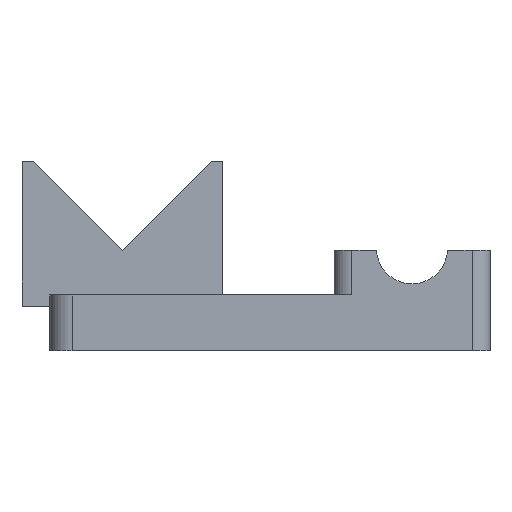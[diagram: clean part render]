
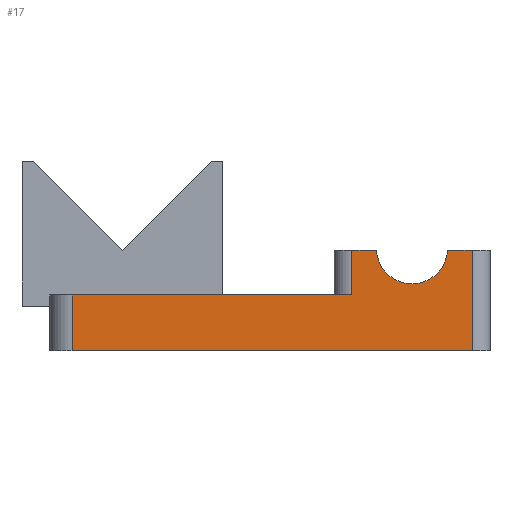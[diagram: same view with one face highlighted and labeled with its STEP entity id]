
A CAD part, left-side view. The second image highlights one B-rep face of the part: STEP entity #17.
In plain terms, the highlighted planar face has unit normal (-1, 0, 0).
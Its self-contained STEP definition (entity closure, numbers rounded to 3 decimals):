
#17 = ADVANCED_FACE('',(#18),#32,.F.);
#18 = FACE_BOUND('',#19,.F.);
#19 = EDGE_LOOP('',(#20,#55,#83,#111,#139,#167,#200,#228));
#20 = ORIENTED_EDGE('',*,*,#21,.F.);
#21 = EDGE_CURVE('',#22,#24,#26,.T.);
#22 = VERTEX_POINT('',#23);
#23 = CARTESIAN_POINT('',(448.,30.5,-4.));
#24 = VERTEX_POINT('',#25);
#25 = CARTESIAN_POINT('',(448.,-5.4,-4.));
#26 = SURFACE_CURVE('',#27,(#31,#43),.PCURVE_S1.);
#27 = LINE('',#28,#29);
#28 = CARTESIAN_POINT('',(448.,30.5,-4.));
#29 = VECTOR('',#30,1.);
#30 = DIRECTION('',(0.,-1.,0.));
#31 = PCURVE('',#32,#37);
#32 = PLANE('',#33);
#33 = AXIS2_PLACEMENT_3D('',#34,#35,#36);
#34 = CARTESIAN_POINT('',(448.,-2.5,-4.));
#35 = DIRECTION('',(1.,0.,0.));
#36 = DIRECTION('',(0.,0.,1.));
#37 = DEFINITIONAL_REPRESENTATION('',(#38),#42);
#38 = LINE('',#39,#40);
#39 = CARTESIAN_POINT('',(0.,-33.));
#40 = VECTOR('',#41,1.);
#41 = DIRECTION('',(0.,1.));
#42 = ( GEOMETRIC_REPRESENTATION_CONTEXT(2) 
PARAMETRIC_REPRESENTATION_CONTEXT() REPRESENTATION_CONTEXT('2D SPACE',''
  ) );
#43 = PCURVE('',#44,#49);
#44 = PLANE('',#45);
#45 = AXIS2_PLACEMENT_3D('',#46,#47,#48);
#46 = CARTESIAN_POINT('',(448.,-2.5,-4.));
#47 = DIRECTION('',(0.,0.,1.));
#48 = DIRECTION('',(1.,0.,-0.));
#49 = DEFINITIONAL_REPRESENTATION('',(#50),#54);
#50 = LINE('',#51,#52);
#51 = CARTESIAN_POINT('',(0.,33.));
#52 = VECTOR('',#53,1.);
#53 = DIRECTION('',(0.,-1.));
#54 = ( GEOMETRIC_REPRESENTATION_CONTEXT(2) 
PARAMETRIC_REPRESENTATION_CONTEXT() REPRESENTATION_CONTEXT('2D SPACE',''
  ) );
#55 = ORIENTED_EDGE('',*,*,#56,.T.);
#56 = EDGE_CURVE('',#22,#57,#59,.T.);
#57 = VERTEX_POINT('',#58);
#58 = CARTESIAN_POINT('',(448.,30.5,1.));
#59 = SURFACE_CURVE('',#60,(#64,#71),.PCURVE_S1.);
#60 = LINE('',#61,#62);
#61 = CARTESIAN_POINT('',(448.,30.5,-4.));
#62 = VECTOR('',#63,1.);
#63 = DIRECTION('',(0.,0.,1.));
#64 = PCURVE('',#32,#65);
#65 = DEFINITIONAL_REPRESENTATION('',(#66),#70);
#66 = LINE('',#67,#68);
#67 = CARTESIAN_POINT('',(0.,-33.));
#68 = VECTOR('',#69,1.);
#69 = DIRECTION('',(1.,0.));
#70 = ( GEOMETRIC_REPRESENTATION_CONTEXT(2) 
PARAMETRIC_REPRESENTATION_CONTEXT() REPRESENTATION_CONTEXT('2D SPACE',''
  ) );
#71 = PCURVE('',#72,#77);
#72 = CYLINDRICAL_SURFACE('',#73,2.);
#73 = AXIS2_PLACEMENT_3D('',#74,#75,#76);
#74 = CARTESIAN_POINT('',(450.,30.5,-4.));
#75 = DIRECTION('',(0.,0.,1.));
#76 = DIRECTION('',(-1.,-0.,0.));
#77 = DEFINITIONAL_REPRESENTATION('',(#78),#82);
#78 = LINE('',#79,#80);
#79 = CARTESIAN_POINT('',(-0.,0.));
#80 = VECTOR('',#81,1.);
#81 = DIRECTION('',(-0.,1.));
#82 = ( GEOMETRIC_REPRESENTATION_CONTEXT(2) 
PARAMETRIC_REPRESENTATION_CONTEXT() REPRESENTATION_CONTEXT('2D SPACE',''
  ) );
#83 = ORIENTED_EDGE('',*,*,#84,.F.);
#84 = EDGE_CURVE('',#85,#57,#87,.T.);
#85 = VERTEX_POINT('',#86);
#86 = CARTESIAN_POINT('',(448.,5.4,1.));
#87 = SURFACE_CURVE('',#88,(#92,#99),.PCURVE_S1.);
#88 = LINE('',#89,#90);
#89 = CARTESIAN_POINT('',(448.,-2.5,1.));
#90 = VECTOR('',#91,1.);
#91 = DIRECTION('',(0.,1.,0.));
#92 = PCURVE('',#32,#93);
#93 = DEFINITIONAL_REPRESENTATION('',(#94),#98);
#94 = LINE('',#95,#96);
#95 = CARTESIAN_POINT('',(5.,0.));
#96 = VECTOR('',#97,1.);
#97 = DIRECTION('',(0.,-1.));
#98 = ( GEOMETRIC_REPRESENTATION_CONTEXT(2) 
PARAMETRIC_REPRESENTATION_CONTEXT() REPRESENTATION_CONTEXT('2D SPACE',''
  ) );
#99 = PCURVE('',#100,#105);
#100 = PLANE('',#101);
#101 = AXIS2_PLACEMENT_3D('',#102,#103,#104);
#102 = CARTESIAN_POINT('',(448.,-2.5,1.));
#103 = DIRECTION('',(0.,0.,1.));
#104 = DIRECTION('',(1.,0.,0.));
#105 = DEFINITIONAL_REPRESENTATION('',(#106),#110);
#106 = LINE('',#107,#108);
#107 = CARTESIAN_POINT('',(0.,0.));
#108 = VECTOR('',#109,1.);
#109 = DIRECTION('',(0.,1.));
#110 = ( GEOMETRIC_REPRESENTATION_CONTEXT(2) 
PARAMETRIC_REPRESENTATION_CONTEXT() REPRESENTATION_CONTEXT('2D SPACE',''
  ) );
#111 = ORIENTED_EDGE('',*,*,#112,.T.);
#112 = EDGE_CURVE('',#85,#113,#115,.T.);
#113 = VERTEX_POINT('',#114);
#114 = CARTESIAN_POINT('',(448.,5.4,5.));
#115 = SURFACE_CURVE('',#116,(#120,#127),.PCURVE_S1.);
#116 = LINE('',#117,#118);
#117 = CARTESIAN_POINT('',(448.,5.4,-4.));
#118 = VECTOR('',#119,1.);
#119 = DIRECTION('',(0.,0.,1.));
#120 = PCURVE('',#32,#121);
#121 = DEFINITIONAL_REPRESENTATION('',(#122),#126);
#122 = LINE('',#123,#124);
#123 = CARTESIAN_POINT('',(0.,-7.9));
#124 = VECTOR('',#125,1.);
#125 = DIRECTION('',(1.,0.));
#126 = ( GEOMETRIC_REPRESENTATION_CONTEXT(2) 
PARAMETRIC_REPRESENTATION_CONTEXT() REPRESENTATION_CONTEXT('2D SPACE',''
  ) );
#127 = PCURVE('',#128,#133);
#128 = CYLINDRICAL_SURFACE('',#129,1.6);
#129 = AXIS2_PLACEMENT_3D('',#130,#131,#132);
#130 = CARTESIAN_POINT('',(449.6,5.4,-4.));
#131 = DIRECTION('',(0.,0.,1.));
#132 = DIRECTION('',(-1.,-0.,0.));
#133 = DEFINITIONAL_REPRESENTATION('',(#134),#138);
#134 = LINE('',#135,#136);
#135 = CARTESIAN_POINT('',(-0.,0.));
#136 = VECTOR('',#137,1.);
#137 = DIRECTION('',(-0.,1.));
#138 = ( GEOMETRIC_REPRESENTATION_CONTEXT(2) 
PARAMETRIC_REPRESENTATION_CONTEXT() REPRESENTATION_CONTEXT('2D SPACE',''
  ) );
#139 = ORIENTED_EDGE('',*,*,#140,.F.);
#140 = EDGE_CURVE('',#141,#113,#143,.T.);
#141 = VERTEX_POINT('',#142);
#142 = CARTESIAN_POINT('',(448.,3.194,5.));
#143 = SURFACE_CURVE('',#144,(#148,#155),.PCURVE_S1.);
#144 = LINE('',#145,#146);
#145 = CARTESIAN_POINT('',(448.,-7.,5.));
#146 = VECTOR('',#147,1.);
#147 = DIRECTION('',(0.,1.,0.));
#148 = PCURVE('',#32,#149);
#149 = DEFINITIONAL_REPRESENTATION('',(#150),#154);
#150 = LINE('',#151,#152);
#151 = CARTESIAN_POINT('',(9.,4.5));
#152 = VECTOR('',#153,1.);
#153 = DIRECTION('',(0.,-1.));
#154 = ( GEOMETRIC_REPRESENTATION_CONTEXT(2) 
PARAMETRIC_REPRESENTATION_CONTEXT() REPRESENTATION_CONTEXT('2D SPACE',''
  ) );
#155 = PCURVE('',#156,#161);
#156 = PLANE('',#157);
#157 = AXIS2_PLACEMENT_3D('',#158,#159,#160);
#158 = CARTESIAN_POINT('',(448.,-7.,5.));
#159 = DIRECTION('',(0.,0.,1.));
#160 = DIRECTION('',(1.,0.,0.));
#161 = DEFINITIONAL_REPRESENTATION('',(#162),#166);
#162 = LINE('',#163,#164);
#163 = CARTESIAN_POINT('',(0.,0.));
#164 = VECTOR('',#165,1.);
#165 = DIRECTION('',(0.,1.));
#166 = ( GEOMETRIC_REPRESENTATION_CONTEXT(2) 
PARAMETRIC_REPRESENTATION_CONTEXT() REPRESENTATION_CONTEXT('2D SPACE',''
  ) );
#167 = ORIENTED_EDGE('',*,*,#168,.T.);
#168 = EDGE_CURVE('',#141,#169,#171,.T.);
#169 = VERTEX_POINT('',#170);
#170 = CARTESIAN_POINT('',(448.,-3.194,5.));
#171 = SURFACE_CURVE('',#172,(#177,#188),.PCURVE_S1.);
#172 = CIRCLE('',#173,3.2);
#173 = AXIS2_PLACEMENT_3D('',#174,#175,#176);
#174 = CARTESIAN_POINT('',(448.,0.,5.2));
#175 = DIRECTION('',(-1.,0.,0.));
#176 = DIRECTION('',(0.,-0.707,0.707));
#177 = PCURVE('',#32,#178);
#178 = DEFINITIONAL_REPRESENTATION('',(#179),#187);
#179 = ( BOUNDED_CURVE() B_SPLINE_CURVE(2,(#180,#181,#182,#183,#184,#185
,#186),.UNSPECIFIED.,.T.,.F.) B_SPLINE_CURVE_WITH_KNOTS((1,2,2,2,2,1),(
    -2.094,0.,2.094,4.189,6.283,
8.378),.UNSPECIFIED.) CURVE() GEOMETRIC_REPRESENTATION_ITEM() 
RATIONAL_B_SPLINE_CURVE((1.,0.5,1.,0.5,1.,0.5,1.)) REPRESENTATION_ITEM(
  '') );
#180 = CARTESIAN_POINT('',(11.463,-0.237));
#181 = CARTESIAN_POINT('',(15.382,-4.156));
#182 = CARTESIAN_POINT('',(10.028,-5.591));
#183 = CARTESIAN_POINT('',(4.675,-7.025));
#184 = CARTESIAN_POINT('',(6.109,-1.672));
#185 = CARTESIAN_POINT('',(7.544,3.682));
#186 = CARTESIAN_POINT('',(11.463,-0.237));
#187 = ( GEOMETRIC_REPRESENTATION_CONTEXT(2) 
PARAMETRIC_REPRESENTATION_CONTEXT() REPRESENTATION_CONTEXT('2D SPACE',''
  ) );
#188 = PCURVE('',#189,#194);
#189 = CYLINDRICAL_SURFACE('',#190,3.2);
#190 = AXIS2_PLACEMENT_3D('',#191,#192,#193);
#191 = CARTESIAN_POINT('',(447.,0.,5.2));
#192 = DIRECTION('',(-1.,-0.,-0.));
#193 = DIRECTION('',(0.,-0.707,0.707));
#194 = DEFINITIONAL_REPRESENTATION('',(#195),#199);
#195 = LINE('',#196,#197);
#196 = CARTESIAN_POINT('',(-6.283,-1.));
#197 = VECTOR('',#198,1.);
#198 = DIRECTION('',(1.,-0.));
#199 = ( GEOMETRIC_REPRESENTATION_CONTEXT(2) 
PARAMETRIC_REPRESENTATION_CONTEXT() REPRESENTATION_CONTEXT('2D SPACE',''
  ) );
#200 = ORIENTED_EDGE('',*,*,#201,.F.);
#201 = EDGE_CURVE('',#202,#169,#204,.T.);
#202 = VERTEX_POINT('',#203);
#203 = CARTESIAN_POINT('',(448.,-5.4,5.));
#204 = SURFACE_CURVE('',#205,(#209,#216),.PCURVE_S1.);
#205 = LINE('',#206,#207);
#206 = CARTESIAN_POINT('',(448.,-7.,5.));
#207 = VECTOR('',#208,1.);
#208 = DIRECTION('',(0.,1.,0.));
#209 = PCURVE('',#32,#210);
#210 = DEFINITIONAL_REPRESENTATION('',(#211),#215);
#211 = LINE('',#212,#213);
#212 = CARTESIAN_POINT('',(9.,4.5));
#213 = VECTOR('',#214,1.);
#214 = DIRECTION('',(0.,-1.));
#215 = ( GEOMETRIC_REPRESENTATION_CONTEXT(2) 
PARAMETRIC_REPRESENTATION_CONTEXT() REPRESENTATION_CONTEXT('2D SPACE',''
  ) );
#216 = PCURVE('',#217,#222);
#217 = PLANE('',#218);
#218 = AXIS2_PLACEMENT_3D('',#219,#220,#221);
#219 = CARTESIAN_POINT('',(448.,-7.,5.));
#220 = DIRECTION('',(0.,0.,1.));
#221 = DIRECTION('',(1.,0.,0.));
#222 = DEFINITIONAL_REPRESENTATION('',(#223),#227);
#223 = LINE('',#224,#225);
#224 = CARTESIAN_POINT('',(0.,0.));
#225 = VECTOR('',#226,1.);
#226 = DIRECTION('',(0.,1.));
#227 = ( GEOMETRIC_REPRESENTATION_CONTEXT(2) 
PARAMETRIC_REPRESENTATION_CONTEXT() REPRESENTATION_CONTEXT('2D SPACE',''
  ) );
#228 = ORIENTED_EDGE('',*,*,#229,.F.);
#229 = EDGE_CURVE('',#24,#202,#230,.T.);
#230 = SURFACE_CURVE('',#231,(#235,#242),.PCURVE_S1.);
#231 = LINE('',#232,#233);
#232 = CARTESIAN_POINT('',(448.,-5.4,-4.));
#233 = VECTOR('',#234,1.);
#234 = DIRECTION('',(0.,0.,1.));
#235 = PCURVE('',#32,#236);
#236 = DEFINITIONAL_REPRESENTATION('',(#237),#241);
#237 = LINE('',#238,#239);
#238 = CARTESIAN_POINT('',(0.,2.9));
#239 = VECTOR('',#240,1.);
#240 = DIRECTION('',(1.,0.));
#241 = ( GEOMETRIC_REPRESENTATION_CONTEXT(2) 
PARAMETRIC_REPRESENTATION_CONTEXT() REPRESENTATION_CONTEXT('2D SPACE',''
  ) );
#242 = PCURVE('',#243,#248);
#243 = CYLINDRICAL_SURFACE('',#244,1.6);
#244 = AXIS2_PLACEMENT_3D('',#245,#246,#247);
#245 = CARTESIAN_POINT('',(449.6,-5.4,-4.));
#246 = DIRECTION('',(0.,0.,1.));
#247 = DIRECTION('',(-1.,-0.,0.));
#248 = DEFINITIONAL_REPRESENTATION('',(#249),#253);
#249 = LINE('',#250,#251);
#250 = CARTESIAN_POINT('',(0.,0.));
#251 = VECTOR('',#252,1.);
#252 = DIRECTION('',(0.,1.));
#253 = ( GEOMETRIC_REPRESENTATION_CONTEXT(2) 
PARAMETRIC_REPRESENTATION_CONTEXT() REPRESENTATION_CONTEXT('2D SPACE',''
  ) );
